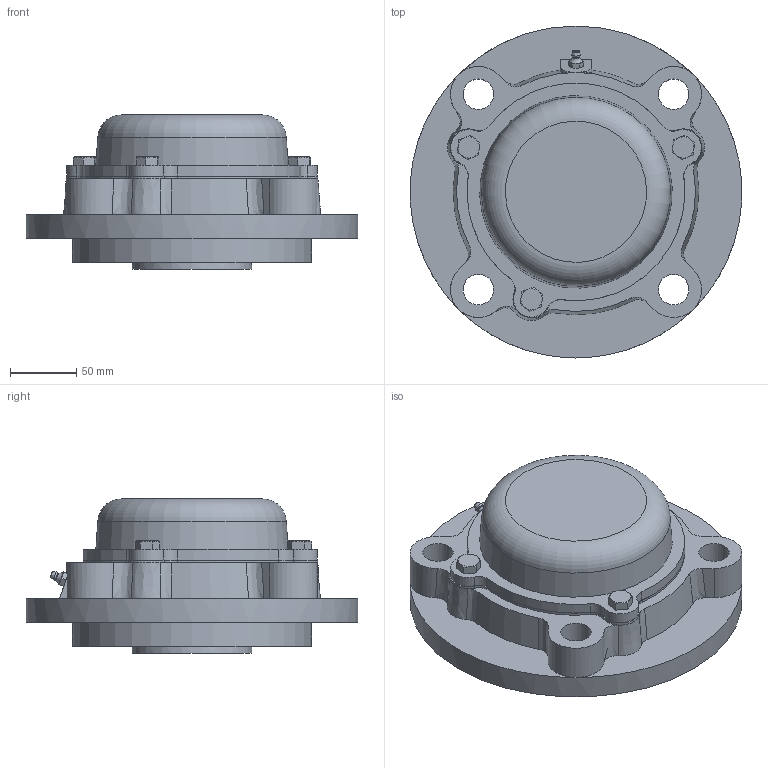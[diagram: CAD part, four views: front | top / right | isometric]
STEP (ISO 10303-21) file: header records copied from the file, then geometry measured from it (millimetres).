
FILE_DESCRIPTION((''),'2;1');
FILE_NAME('\\Ts-tgl068\j-cad-d-base\00.3DCADデータ作成フォルダ\02.フランジ形\CUKFC200\CUKFC217CE+H.stp','2014-05-22T08:58:37',('btec_1106_2'),(''),'Autodesk Inventor 2012','Autodesk Inventor 2012','');
FILE_SCHEMA(('AUTOMOTIVE_DESIGN { 1 0 10303 214 1 1 1 1 }'));
Length unit declared in the file: millimetre
Products named in the file (7): CUKFC200CE+H; CFC217; UK217; G1; 217CE; M10X1
Assembly tree (8 placements, depth 3):
  CUKFC200CE+H
    CFC217
    UK217
    G1
    217CE
      217CE
      M10X1  x3
Bounding box: 250 x 250 x 116 mm (x, y, z)
Volume: 1895072.8 mm3; surface area: 318147.2 mm2
Topology: 7 solids, 7 shells, 314 faces, 780 edges, 495 vertices
Faces by surface type: plane 123, cylinder 90, cone 79, bspline 14, sphere 4, torus 4
Full cylindrical faces by diameter (mm): 8.376 x3, 8.566 x1, 9.728 x1, 10 x3, 12 x3, 23 x4, 75 x1, 85 x1, 105 x2, 147 x1, 152 x1, 180 x1, 250 x1
Entity records: 8891 total; most frequent: CARTESIAN_POINT 2411, DIRECTION 1311, ORIENTED_EDGE 1306, EDGE_CURVE 653, AXIS2_PLACEMENT_3D 548, VERTEX_POINT 431, EDGE_LOOP 352, FACE_OUTER_BOUND 280
